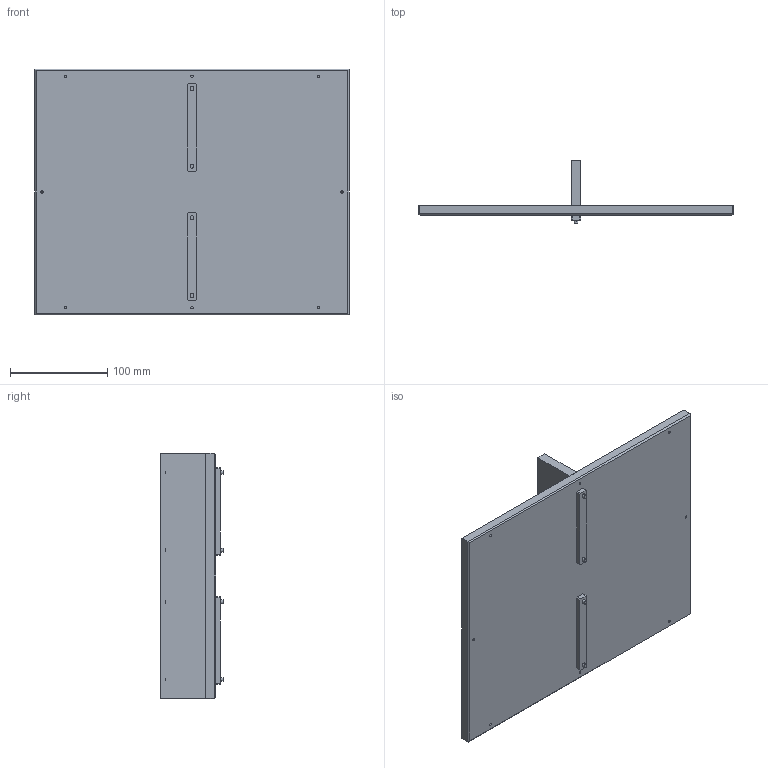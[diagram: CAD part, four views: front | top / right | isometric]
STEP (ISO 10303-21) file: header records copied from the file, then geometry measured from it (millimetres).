
FILE_DESCRIPTION (( 'STEP AP214' ), '1' );
FILE_NAME ('Asyril_FLAT VIBRATING PLATE 380 SEP - H60_000.104.975_(option).STEP', '2021-10-18T07:01:14', ( '' ), ( '' ), 'SwSTEP 2.0', 'SolidWorks 2017', '' );
FILE_SCHEMA (( 'AUTOMOTIVE_DESIGN' ));
Length unit declared in the file: millimetre
Products named in the file (1): Asyril_FLAT VIBRATING PLATE 380 SEP - H60_000.104.975_(option)
Bounding box: 323.8 x 64.5 x 252.8 mm (x, y, z)
Volume: 943245.7 mm3; surface area: 201986 mm2
Topology: 1 solids, 1 shells, 105 faces, 232 edges, 152 vertices
Faces by surface type: plane 57, cylinder 40, torus 8
Entity records: 3777 total; most frequent: DIRECTION 540, CARTESIAN_POINT 490, ORIENTED_EDGE 464, EDGE_CURVE 232, AXIS2_PLACEMENT_3D 202, VERTEX_POINT 152, LINE 136, VECTOR 136
